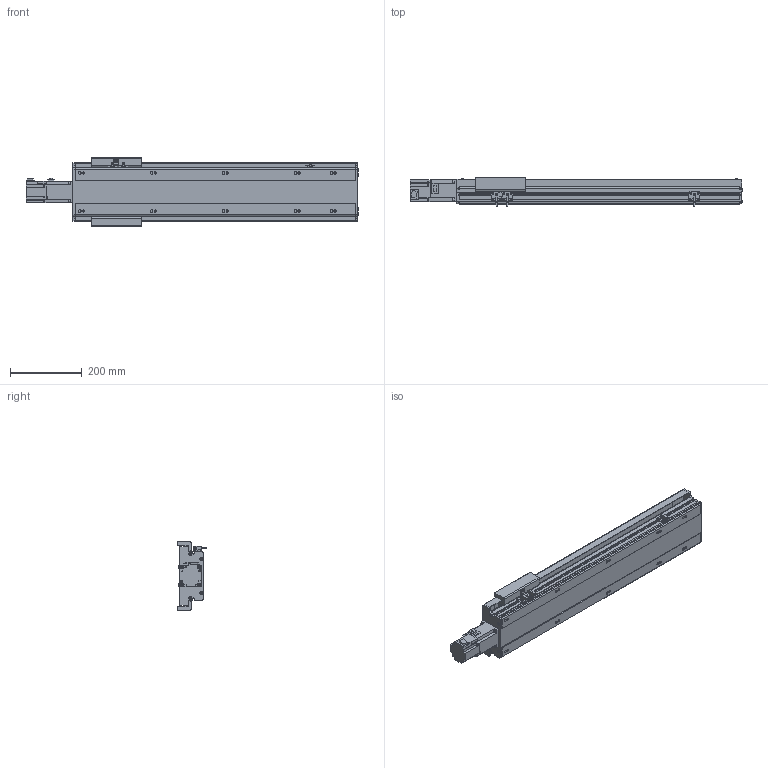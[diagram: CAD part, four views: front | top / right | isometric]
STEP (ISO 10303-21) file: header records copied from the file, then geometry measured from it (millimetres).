
FILE_DESCRIPTION(/* description */ ('STEP AP214'),/* implementation_level */ '2;1');
FILE_NAME(/* name */ 'PSM140-L10-S550-BC-T40-C1-N(0)',/* time_stamp */ '2022-06-13T03:19:23+02:00',/* author */ ('License CC BY-ND 4.0'),/* organization */ ('CADENAS'),/* preprocessor_version */ 'ST-DEVELOPER v18.102',/* originating_system */ 'PARTsolutions',/* authorisation */ ' ');
FILE_SCHEMA (('AUTOMOTIVE_DESIGN {1 0 10303 214 3 1 1}'));
Length unit declared in the file: millimetre
Products named in the file (7): PSM140-L10-S550-BC-T40-C1-N(0); PSM-Sensor; PSM140-S550-792.5; T40-p1; PSM140_body3; PSM140-S550_body1; PSM140-L10-S550-BC-T40-C1-N(0)_dummy
Assembly tree (10 placements, depth 2):
  PSM140-L10-S550-BC-T40-C1-N(0)
    PSM-Sensor  x3
    PSM140-S550-792.5  x3
    T40-p1
    PSM140_body3
    PSM140-S550_body1
    PSM140-L10-S550-BC-T40-C1-N(0)_dummy
Bounding box: 923.7 x 81.3 x 190 mm (x, y, z)
Volume: 4007717.6 mm3; surface area: 850809.1 mm2
Topology: 9 solids, 9 shells, 944 faces, 2495 edges, 1622 vertices
Faces by surface type: plane 624, cylinder 250, cone 56, torus 14
Full cylindrical faces by diameter (mm): 2.8 x3, 4.5 x12, 4.6 x3, 4.917 x18, 5.5 x7, 5.7 x6, 6 x2, 7 x18, 8 x8, 8.5 x4, 10.5 x10, 14 x1, 50 x1
Entity records: 24050 total; most frequent: CARTESIAN_POINT 4295, DIRECTION 4063, ORIENTED_EDGE 3830, EDGE_CURVE 1915, LINE 1357, VECTOR 1357, AXIS2_PLACEMENT_3D 1353, VERTEX_POINT 1340
